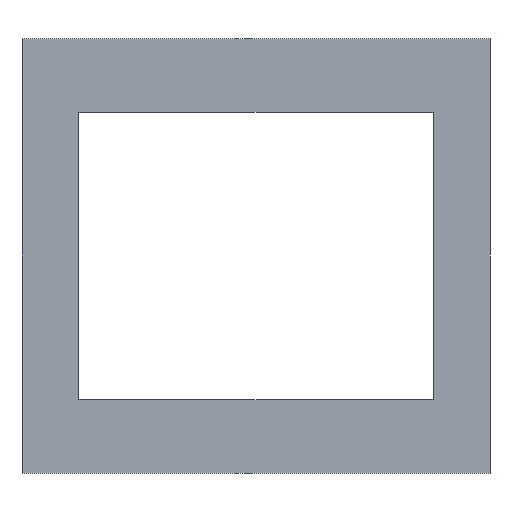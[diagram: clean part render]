
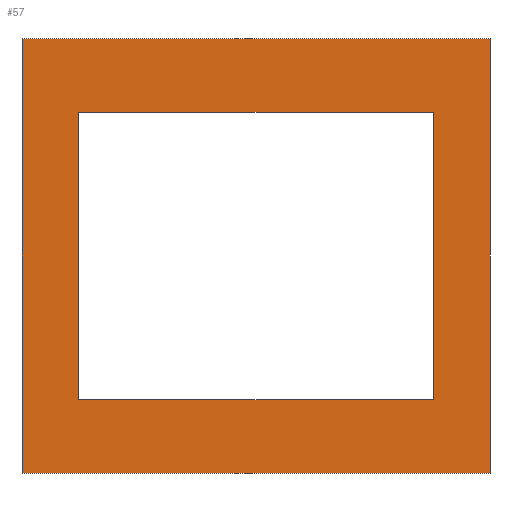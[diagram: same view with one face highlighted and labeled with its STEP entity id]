
A CAD part, front view. The second image highlights one B-rep face of the part: STEP entity #57.
In plain terms, the highlighted planar face has unit normal (0, -1, 0).
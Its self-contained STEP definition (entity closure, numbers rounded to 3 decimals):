
#21 = EDGE_CURVE('',#22,#24,#26,.T.);
#22 = VERTEX_POINT('',#23);
#23 = CARTESIAN_POINT('',(-7.,-11.5,189.15));
#24 = VERTEX_POINT('',#25);
#25 = CARTESIAN_POINT('',(-7.,-11.5,202.15));
#26 = LINE('',#27,#28);
#27 = CARTESIAN_POINT('',(-7.,-11.5,189.15));
#28 = VECTOR('',#29,1.);
#29 = DIRECTION('',(0.,0.,1.));
#57 = ADVANCED_FACE('',(#58,#83),#117,.F.);
#58 = FACE_BOUND('',#59,.F.);
#59 = EDGE_LOOP('',(#60,#68,#69,#77));
#60 = ORIENTED_EDGE('',*,*,#61,.F.);
#61 = EDGE_CURVE('',#22,#62,#64,.T.);
#62 = VERTEX_POINT('',#63);
#63 = CARTESIAN_POINT('',(7.,-11.5,189.15));
#64 = LINE('',#65,#66);
#65 = CARTESIAN_POINT('',(-7.,-11.5,189.15));
#66 = VECTOR('',#67,1.);
#67 = DIRECTION('',(1.,0.,0.));
#68 = ORIENTED_EDGE('',*,*,#21,.T.);
#69 = ORIENTED_EDGE('',*,*,#70,.T.);
#70 = EDGE_CURVE('',#24,#71,#73,.T.);
#71 = VERTEX_POINT('',#72);
#72 = CARTESIAN_POINT('',(7.,-11.5,202.15));
#73 = LINE('',#74,#75);
#74 = CARTESIAN_POINT('',(-7.,-11.5,202.15));
#75 = VECTOR('',#76,1.);
#76 = DIRECTION('',(1.,0.,0.));
#77 = ORIENTED_EDGE('',*,*,#78,.F.);
#78 = EDGE_CURVE('',#62,#71,#79,.T.);
#79 = LINE('',#80,#81);
#80 = CARTESIAN_POINT('',(7.,-11.5,189.15));
#81 = VECTOR('',#82,1.);
#82 = DIRECTION('',(0.,0.,1.));
#83 = FACE_BOUND('',#84,.F.);
#84 = EDGE_LOOP('',(#85,#95,#103,#111));
#85 = ORIENTED_EDGE('',*,*,#86,.F.);
#86 = EDGE_CURVE('',#87,#89,#91,.T.);
#87 = VERTEX_POINT('',#88);
#88 = CARTESIAN_POINT('',(-5.3,-11.5,199.95));
#89 = VERTEX_POINT('',#90);
#90 = CARTESIAN_POINT('',(5.3,-11.5,199.95));
#91 = LINE('',#92,#93);
#92 = CARTESIAN_POINT('',(-6.15,-11.5,199.95));
#93 = VECTOR('',#94,1.);
#94 = DIRECTION('',(1.,0.,0.));
#95 = ORIENTED_EDGE('',*,*,#96,.T.);
#96 = EDGE_CURVE('',#87,#97,#99,.T.);
#97 = VERTEX_POINT('',#98);
#98 = CARTESIAN_POINT('',(-5.3,-11.5,191.35));
#99 = LINE('',#100,#101);
#100 = CARTESIAN_POINT('',(-5.3,-11.5,190.25));
#101 = VECTOR('',#102,1.);
#102 = DIRECTION('',(0.,0.,-1.));
#103 = ORIENTED_EDGE('',*,*,#104,.T.);
#104 = EDGE_CURVE('',#97,#105,#107,.T.);
#105 = VERTEX_POINT('',#106);
#106 = CARTESIAN_POINT('',(5.3,-11.5,191.35));
#107 = LINE('',#108,#109);
#108 = CARTESIAN_POINT('',(-6.15,-11.5,191.35));
#109 = VECTOR('',#110,1.);
#110 = DIRECTION('',(1.,0.,0.));
#111 = ORIENTED_EDGE('',*,*,#112,.F.);
#112 = EDGE_CURVE('',#89,#105,#113,.T.);
#113 = LINE('',#114,#115);
#114 = CARTESIAN_POINT('',(5.3,-11.5,190.25));
#115 = VECTOR('',#116,1.);
#116 = DIRECTION('',(0.,0.,-1.));
#117 = PLANE('',#118);
#118 = AXIS2_PLACEMENT_3D('',#119,#120,#121);
#119 = CARTESIAN_POINT('',(-7.,-11.5,189.15));
#120 = DIRECTION('',(0.,1.,0.));
#121 = DIRECTION('',(0.,0.,1.));
